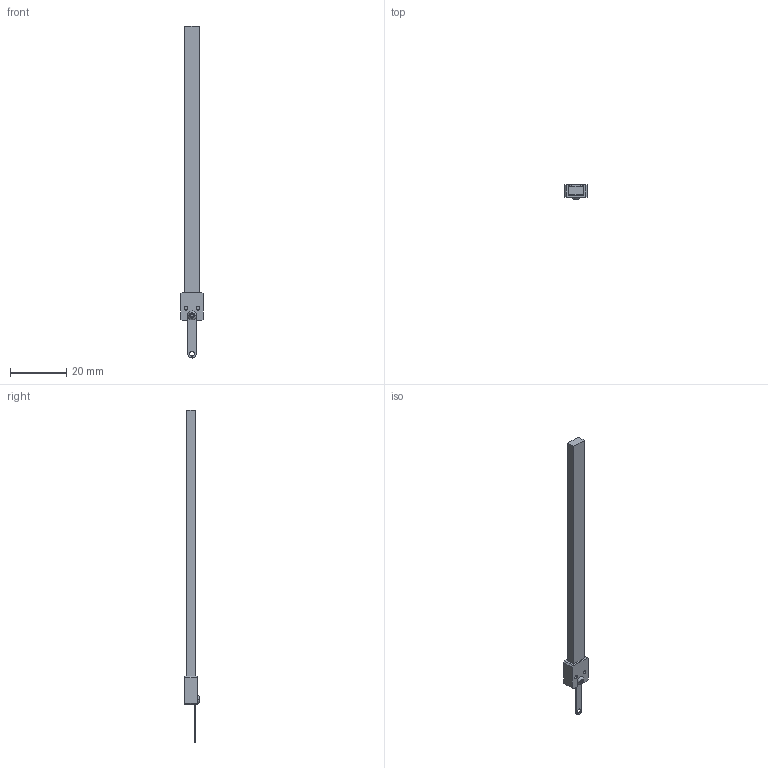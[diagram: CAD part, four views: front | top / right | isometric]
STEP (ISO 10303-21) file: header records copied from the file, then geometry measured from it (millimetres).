
FILE_DESCRIPTION (( 'STEP AP214' ), '1' );
FILE_NAME ('LT4050A_DriveRod_101D1D2-PiezoMotor.STEP', '2017-08-14T09:46:12', ( '' ), ( '' ), 'SwSTEP 2.0', 'SolidWorks 2016', '' );
FILE_SCHEMA (( 'AUTOMOTIVE_DESIGN' ));
Length unit declared in the file: millimetre
Products named in the file (1): LT4050A_DriveRod_101D1D2-PiezoMotor
Bounding box: 8 x 5.1 x 118.15 mm (x, y, z)
Volume: 1829.4 mm3; surface area: 2221.3 mm2
Topology: 4 solids, 4 shells, 77 faces, 199 edges, 130 vertices
Faces by surface type: cylinder 35, plane 34, cone 6, torus 2
Entity records: 2476 total; most frequent: DIRECTION 439, CARTESIAN_POINT 407, ORIENTED_EDGE 398, EDGE_CURVE 199, AXIS2_PLACEMENT_3D 162, VERTEX_POINT 130, VECTOR 115, LINE 115
